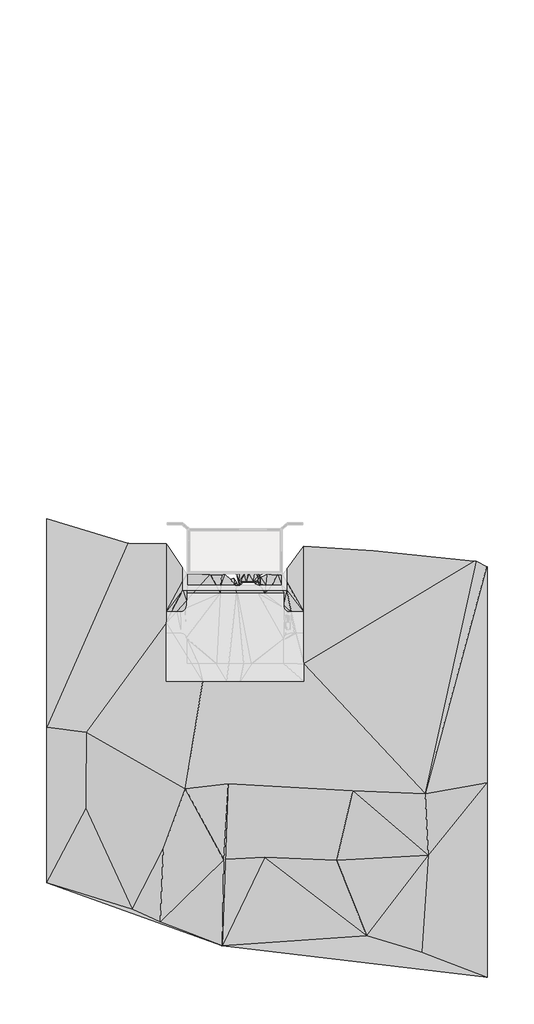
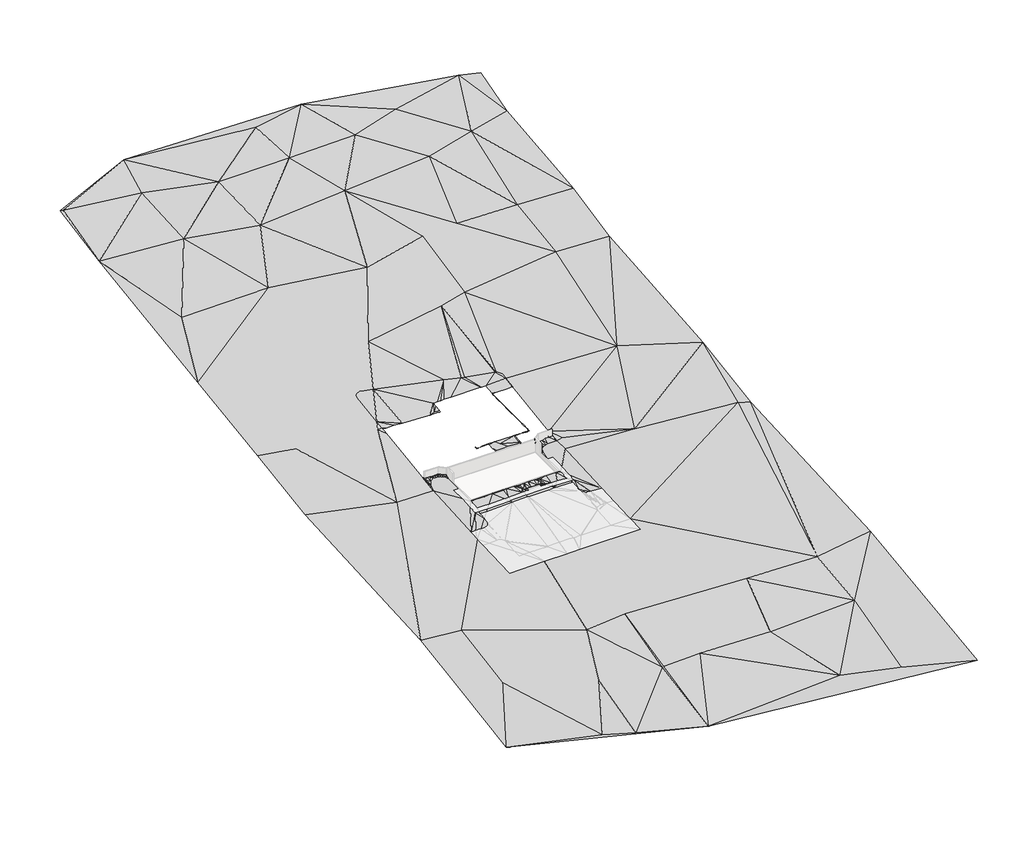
# One storey, part 2 of 2: 2 proxies.
"""IFC4 building model written with IfcOpenShell, lengths in millimetres."""

from ifc_helpers import new_model, si_unit, origin, place, context, project, spatial, triangles, element, save

model = new_model("IFC4")

# Units and contexts
model_context = context("Model", 3, world=origin())
ifc_project = project(units=[si_unit("LENGTHUNIT", "METRE", prefix="MILLI")], contexts=[model_context])

# Site, building, storey
site = spatial("IfcSite", under=ifc_project)
building = spatial("IfcBuilding", under=site)
storey = spatial("IfcBuildingStorey", under=building, Name="T. O. Footing", Elevation=38404.8)

# Proxies
placement = place(None, origin())
element("IfcBuildingElementProxy", 1, Name="Building Element Proxy", at=placement, inside=storey, context=model_context, shape_type="Tessellation", body=[
    triangles([(-65566.3560425, 54771.6940063, 47548.8), (-65566.3560425, 23905.6129211, 43281.6), (-65566.3560425, -345.1837632, 39624.0), (-65566.3560425, -59376.9942993, 36271.2), (-65566.3560425, -80012.2417236, 32918.4), (-65566.3560425, -103024.7161377, 29260.8), (-16088.8167938, -120709.7389893, 29260.8), (58298.9810303, -129683.2563721, 29260.8), (58298.9810303, -100912.8171387, 32918.4), (58298.9810303, -74931.7843872, 36271.2), (58298.9810303, -13804.5701752, 39624.0), (58298.9810303, 10950.1955658, 43281.6), (58298.9810303, 58625.2866943, 47548.8), (58298.9810303, 77099.4381226, 51206.4), (58298.9810303, 111072.8853516, 54864.0), (58298.9810303, 124538.1192627, 58521.6), (53017.0522705, 126513.4126465, 58521.6), (8975.5277252, 130983.2886475, 62179.2), (-42778.1888672, 132098.7461426, 62179.2), (-65566.3560425, 125110.0843506, 58521.6), (-65566.3560425, 105131.4526611, 54864.0), (-65566.3560425, 80665.4483643, 51206.4), (6713.5082382, 23687.6494812, 43454.6964111), (6713.5082382, 22325.9395752, 43281.6), (6713.5082382, 223.4081839, 40127.0669678), (6713.5082382, -3887.1630226, 39624.0), (6713.5082382, -8095.8866501, 39624.0), (6713.5082382, -41502.1365234, 37981.7700073), (6713.5082382, -46447.1509644, 37739.1848145), (-11101.993277, -46447.1509644, 37690.3040771), (-14873.8816498, -46447.1509644, 37697.8082703), (-21667.2100159, -46447.1509644, 37737.7942017), (-31843.6911804, -46447.1509644, 37478.2495789), (-31843.6911804, -29990.7461426, 38210.9304382), (-31843.6911804, -7386.550296, 39624.0), (-31843.6911804, 16710.0009705, 43004.221582), (-31843.6911804, 18912.4676971, 43281.6), (-31843.6911804, 21500.824823, 43679.8408081), (-31843.6911804, 31478.5553284, 45012.8385132), (-31798.0823364, 31884.439856, 45067.9142212), (-31663.5277588, 32270.0791077, 45121.9527832), (-31446.7386658, 32616.2370483, 45172.2520386), (-31158.5306763, 32905.6496155, 45216.3098145), (-30813.279657, 33123.8781555, 45251.9262451), (-30428.2054871, 33260.0396118, 45277.3200439), (-30022.5139709, 33307.3390503, 45291.2308228), (-29616.4434082, 33263.4208008, 45292.9609497), (-26512.2375366, 32570.4468201, 45258.46073), (-8016.3990601, 28441.4779175, 44191.1537842), (-3527.9640175, 27439.4902405, 43913.0963379), (-2630.4894379, 27239.139679, 43841.1611938), (5283.1577545, 25472.5172791, 43671.6366577), (5671.6485764, 25338.478949, 43657.297998), (6020.4005447, 25121.0759399, 43632.0902344), (6311.801944, 24831.2889771, 43597.2784058), (6531.1379745, 24483.7520508, 43554.6251953), (6667.3325684, 24096.0106018, 43506.28396), (-64839.9352661, 124838.4079102, 58521.6), (-57117.6670898, 77534.0581055, 51206.4), (-55581.5050415, 21844.4038513, 43281.6), (-54503.2824829, -82086.8313721, 32918.4), (-54342.5946167, -60669.7386475, 36271.2), (-43589.8276978, 121566.5611084, 58521.6), (-42615.7801758, -7218.9988953, 39624.0), (-41840.7019043, 102995.7132568, 54864.0), (-41419.002063, -110455.8067383, 29260.8), (-33578.3876221, -114053.0383301, 29260.8), (-33188.6648987, 18708.2766724, 43281.6), (-32698.5506287, -93551.2757813, 32918.4), (-31422.1680725, 77804.0602295, 51206.4), (-26498.5802307, -76619.9697144, 36271.2), (-23922.9513977, 116020.1368652, 58521.6), (-21919.3736938, 98427.0525879, 54864.0), (-18777.1213074, 48630.7618652, 47548.8), (-15723.2751526, -96645.5148193, 32918.4), (-15214.353891, -96499.6911621, 32918.4), (-14444.5799469, -75188.0199097, 36271.2), (-4898.8998138, 73072.0188354, 51206.4), (-4245.1559967, -95922.5542969, 32918.4), (-6256.2099884, 127792.3206299, 62179.2), (-3081.402903, 116177.27146, 58521.6), (5530.8839127, 53157.6994995, 47548.8), (8597.6874161, -3404.4724274, 39624.0), (13741.8135406, 55510.3093872, 47548.8), (14294.2170319, 77841.5184082, 51206.4), (16111.8177155, -96765.0703125, 32918.4), (16778.9955963, 116699.7791016, 58521.6), (20526.1866394, -77143.9051758, 36271.2), (24450.7540649, -117898.989624, 29260.8), (24757.4772034, 78625.340332, 51206.4), (26513.2118958, -9307.6138504, 39624.0), (30977.6905518, 103466.15896, 54864.0), (31363.5669983, 121416.2819092, 58521.6), (38557.1930237, 20583.5877869, 43281.6), (39910.326709, -122583.6339111, 29260.8), (40883.1603516, -77986.4165405, 36271.2), (41787.3144653, -95345.6499756, 32918.4), (42279.0797974, 77952.17677, 51206.4), (42879.2524658, 59430.5491699, 47548.8), (45842.480896, 107756.8738037, 54864.0), (55328.1716675, -12321.6362732, 39624.0), (4529.1581383, 100946.601123, 54864.0)], [[6, 61, 5], [61, 6, 66], [5, 61, 62], [66, 67, 69], [67, 66, 6], [69, 67, 75], [66, 69, 61], [6, 7, 67], [62, 61, 71], [3, 4, 64], [62, 4, 5], [34, 64, 4], [68, 64, 36], [4, 62, 34], [33, 34, 62], [3, 64, 60], [33, 62, 71], [68, 60, 64], [71, 61, 69], [32, 71, 77], [75, 67, 7], [71, 69, 75], [75, 76, 77], [76, 75, 7], [29, 30, 77], [75, 77, 71], [79, 77, 76], [32, 77, 31], [37, 38, 68], [35, 36, 64], [64, 34, 35], [30, 31, 77], [36, 37, 68], [76, 7, 79], [32, 33, 71], [60, 68, 38], [70, 59, 1], [60, 1, 2], [1, 59, 22], [60, 39, 40], [60, 38, 39], [1, 60, 41], [2, 3, 60], [65, 59, 70], [58, 20, 21], [21, 22, 59], [19, 63, 72], [63, 58, 21], [58, 19, 20], [19, 58, 63], [72, 63, 65], [63, 21, 65], [59, 65, 21], [60, 40, 41], [44, 1, 43], [43, 1, 42], [48, 49, 74], [74, 1, 44], [1, 74, 70], [74, 44, 45], [74, 45, 46], [70, 78, 73], [74, 47, 48], [81, 72, 73], [65, 73, 72], [78, 70, 74], [46, 47, 74], [73, 65, 70], [82, 74, 49], [42, 1, 41], [19, 72, 80], [83, 26, 27], [96, 28, 29], [88, 29, 77], [83, 27, 91], [79, 89, 86], [27, 28, 91], [56, 57, 94], [23, 24, 94], [25, 94, 24], [25, 83, 91], [25, 26, 83], [57, 23, 94], [79, 86, 88], [88, 86, 97], [89, 7, 95], [97, 89, 95], [88, 97, 96], [95, 9, 97], [9, 95, 8], [96, 97, 10], [7, 8, 95], [10, 97, 9], [91, 12, 94], [96, 101, 28], [91, 94, 25], [96, 29, 88], [11, 101, 96], [101, 12, 91], [12, 101, 11], [28, 101, 91], [10, 11, 96], [94, 12, 13], [97, 86, 89], [79, 7, 89], [56, 94, 55], [82, 50, 51], [82, 51, 52], [54, 55, 84], [53, 54, 84], [52, 53, 82], [72, 81, 80], [78, 102, 73], [73, 102, 81], [80, 81, 18], [78, 85, 102], [84, 82, 53], [81, 87, 18], [102, 87, 81], [85, 78, 84], [84, 78, 82], [74, 82, 78], [80, 18, 19], [94, 84, 55], [49, 50, 82], [90, 99, 98], [90, 85, 84], [90, 98, 92], [90, 92, 102], [99, 13, 14], [84, 94, 99], [99, 14, 98], [84, 99, 90], [98, 14, 100], [87, 92, 93], [87, 102, 92], [93, 92, 100], [87, 93, 18], [100, 15, 17], [100, 92, 98], [16, 17, 15], [100, 17, 93], [14, 15, 100], [93, 17, 18], [102, 85, 90], [94, 13, 99], [77, 79, 88]], closed=False),
])
element("IfcBuildingElementProxy", 2, Name="Building Element Proxy", at=placement, inside=storey, context=model_context, shape_type="Tessellation", body=[
    triangles([(6713.5082382, 23687.6494812, 43454.6964111), (6667.3325684, 24096.0106018, 43506.28396), (6531.1379745, 24483.7520508, 43554.6251953), (6311.801944, 24831.2889771, 43597.2784058), (6020.4005447, 25121.0759399, 43632.0902344), (5671.6485764, 25338.478949, 43657.297998), (5283.1577545, 25472.5172791, 43671.6366577), (-2630.4894379, 27239.139679, 43841.1611938), (-3527.9640175, 27439.4902405, 43913.0963379), (-8016.3990601, 28441.4779175, 44191.1537842), (-26512.2375366, 32570.4468201, 45258.46073), (-29616.4434082, 33263.4208008, 45292.9609497), (-30022.5139709, 33307.3390503, 45291.2308228), (-30428.2054871, 33260.0396118, 45277.3200439), (-30813.279657, 33123.8781555, 45251.9262451), (-31158.5306763, 32905.6496155, 45216.3098145), (-31446.7386658, 32616.2370483, 45172.2520386), (-31663.5277588, 32270.0791077, 45121.9527832), (-31798.0823364, 31884.439856, 45067.9142212), (-31843.6911804, 31478.5553284, 45012.8385132), (-31843.6911804, 21500.824823, 43679.8408081), (-31843.6911804, 18912.4676971, 43281.6), (-31843.6911804, 18475.2478729, 43226.5382446), (-31405.1621338, 18475.2478729, 43213.2785889), (-30975.3069763, 18475.2478729, 43196.4982178), (-28553.5594482, 18475.2478729, 43146.7710205), (-26116.1245056, 18475.2478729, 43033.3825928), (-23969.8996948, 18475.2478729, 42926.5658569), (-21660.9104004, 18475.2478729, 42846.9335083), (-18010.1262634, 18475.2478729, 42705.7560791), (-17524.9454132, 18475.2478729, 42672.0), (-17471.6940125, 18475.2478729, 42672.0), (-16727.5917572, 18475.2478729, 42672.0), (-14875.2024994, 18475.2478729, 42672.0), (-14853.2596527, 18475.2478729, 42672.0), (-14825.691568, 18475.2478729, 42672.0), (-14825.691568, 18969.9025635, 42672.0), (-14825.691568, 19138.3294922, 42684.9945557), (-14825.691568, 20748.5567871, 42941.2300781), (-14825.691568, 22031.2482605, 43169.9603027), (-13690.3341248, 22031.2482605, 43149.6359619), (-12708.2661621, 22031.2482605, 43153.3520142), (-11842.5794678, 22031.2482605, 43253.5970581), (-9687.3302078, 22031.2482605, 43197.8748779), (-939.6762188, 22031.2482605, 43182.085144), (-625.5177784, 22031.2482605, 43164.5048218), (617.5082382, 22031.2482605, 43174.8204712), (617.5082382, 18802.5011536, 42744.9955444), (617.5082382, 18777.5015167, 42742.2887329), (617.5082382, 18672.6218719, 42728.2012207), (617.5082382, 18487.4448029, 42722.9085205), (617.5082382, 18345.6383423, 42704.030603), (617.5082382, 18298.5237762, 42698.9006836), (617.5082382, 17870.5045532, 42672.0), (617.5082382, 16869.3819397, 42672.0), (617.5082382, 16505.0623169, 42645.0295532), (617.5082382, 16325.7674469, 42643.387793), (617.5082382, 13073.4461975, 42613.622168), (617.5082382, 12358.5351837, 42601.8042847), (617.5082382, 11488.1778442, 42584.1541992), (617.5082382, 10958.6008667, 42587.1307617), (617.5082382, 5682.8653336, 42616.7894165), (617.5082382, 5133.5709549, 42591.4421265), (617.5082382, 2208.9770851, 42619.3939087), (617.5082382, 1878.4754562, 42622.5518555), (617.5082382, 1508.353862, 42614.7011719), (617.5082382, 1280.1252056, 42643.3924438), (617.5082382, 1043.7543137, 42641.2669922), (617.5082382, 763.1747103, 42618.5660522), (617.5082382, 637.5418991, 42607.362085), (617.5082382, 451.9540266, 42590.4049805), (617.5082382, 394.358814, 42585.2564575), (617.5082382, 264.7806404, 42574.5966431), (617.5082382, -117.5519817, 42539.3662354), (534.7179065, -117.5519817, 42544.4682495), (359.6249602, -117.5519817, 42547.2680786), (-81.5194064, -117.5519817, 42560.5602905), (-95.457382, -117.5519817, 42561.002124), (-127.0019591, -117.5519817, 42561.9276489), (-649.1245497, -117.5519817, 42573.294397), (-844.679183, -117.5519817, 42573.294397), (-930.609403, -117.5519817, 42573.7083252), (-1118.1737537, -117.5519817, 42573.7083252), (-3531.6614662, -117.5519817, 42567.2436035), (-3634.6755272, -117.5519817, 42564.4902832), (-3707.1806946, -117.5519817, 42560.4626221), (-3847.7395569, -117.5519817, 42566.3971436), (-9536.2214081, -117.5519817, 42672.0), (-11376.8358032, -117.5519817, 42662.358728), (-12971.3128967, -117.5519817, 42587.8144409), (-13097.3819458, -117.5519817, 42584.5960327), (-13213.2923126, -117.5519817, 42576.5035034), (-14512.0688507, -117.5519817, 42461.6267944), (-14757.6306061, -117.5519817, 42463.6452759), (-14825.691568, -117.5519817, 42463.9010742), (-14825.691568, 492.0480183, 42487.8484497), (-14874.9036804, 492.0480183, 42488.0344849), (-14874.9036804, -176.2894757, 42461.7802734), (-14751.0728668, -176.2894757, 42461.3151855), (-14481.8509277, -176.2894757, 42459.0967163), (-13057.9308655, -176.2894757, 42585.047168), (-11410.979068, -176.2894757, 42662.0424683), (-11410.979068, -633.6019506, 42672.0), (-11410.979068, -796.5760145, 42672.0), (-11410.979068, -2536.0472374, 42672.0), (-11410.979068, -2657.4040741, 42672.0), (-11410.979068, -3598.5678474, 42627.639917), (-11410.979068, -3622.7521271, 42631.3373657), (-11373.8964478, -3622.7521271, 42632.5372925), (-11131.5368225, -3622.7521271, 42672.0), (-10871.1550415, -3622.7521271, 42672.0), (-8669.1975861, -3622.7521271, 42672.0), (-7638.4872437, -3622.7521271, 42672.0), (-4750.4728271, -3622.7521271, 42448.9950073), (-4361.559938, -3622.7521271, 42449.6135742), (-3812.9431343, -3622.7521271, 42367.2), (-3693.8972031, -3622.7521271, 42367.2), (-3668.7417618, -3622.7521271, 42367.2), (-3668.7417618, -3544.7699684, 42367.2), (-3668.7417618, -2999.2634399, 42367.2), (-3668.7417618, -2603.8250771, 42395.5378052), (-3668.7417618, -166.7644757, 42563.4856934), (-1168.6588989, -166.7644757, 42570.182959), (-974.3647991, -166.7644757, 42570.182959), (-885.3514097, -166.7644757, 42569.7504272), (-682.7803442, -166.7644757, 42569.7504272), (-141.9242132, -166.7644757, 42557.9790527), (334.8333776, -166.7644757, 42543.6171387), (524.0614348, -166.7644757, 42540.5894165), (652.5906898, -166.7644757, 42532.6689697), (666.7207867, -166.7644757, 42532.3015503), (666.7207867, 492.0480183, 42592.5071777), (666.7207867, 689.6623369, 42610.5618896), (666.7207867, 1012.2610325, 42636.6626221), (666.7207867, 1284.0304905, 42639.1089844), (666.7207867, 1546.4383106, 42606.1203003), (666.7207867, 1971.988789, 42615.1430054), (666.7207867, 5132.682637, 42584.9401978), (666.7207867, 5726.321402, 42612.3338745), (666.7207867, 11427.962915, 42580.2800171), (666.7207867, 12336.7062836, 42598.7067993), (666.7207867, 13083.1467682, 42611.0455811), (666.7207867, 16478.9080994, 42642.1274048), (666.7207867, 16882.4416077, 42672.0), (666.7207867, 17991.3239227, 42672.0), (666.7207867, 18465.4147522, 42701.7981812), (666.7207867, 18517.6011017, 42707.4769043), (666.7207867, 18674.6717468, 42728.3872559), (1038.4202642, 18674.6717468, 42731.4707886), (1396.1425426, 18674.6717468, 42736.2286377), (4995.9084274, 18674.6717468, 42774.1612061), (6497.9452332, 18674.6717468, 42791.1276123), (6713.5082382, 18674.6717468, 42760.4829712), (6713.5082382, 22325.9395752, 43281.6), (-25379.7113159, -3622.7521271, 40728.3093384), (-25515.6890625, -3504.5209717, 40548.4970581), (-25782.0030396, -3272.9647568, 41252.3750244), (-25864.2584839, -3201.4458664, 41501.5040039), (-25973.5657654, -3106.4037025, 41374.2606079), (-26436.7886536, -2703.6381706, 41213.330896), (-26571.3223022, -2586.6633339, 41210.2520142), (-26710.90448, -2465.2986488, 41223.2140137), (-27093.7369263, -2132.4324841, 41975.1681152), (-27296.4361816, -1956.1882999, 42066.6090454), (-27307.7471191, -1946.3519817, 42065.9858276), (-27357.7696472, -1946.3519817, 42062.4), (-27377.1266052, -1946.3519817, 42062.4), (-27697.2233459, -1946.3519817, 42062.4), (-28132.7339722, -1946.3519817, 41633.4447876), (-28262.1749084, -1946.3519817, 41577.699353), (-28830.4192932, -1946.3519817, 41530.5254883), (-28918.8487793, -1946.3519817, 41509.8290771), (-29188.2718689, -1946.3519817, 41757.6), (-29660.1221375, -1946.3519817, 41452.8), (-29999.8548889, -1946.3519817, 40843.2), (-30250.4861023, -1946.3519817, 40600.0985596), (-31075.6729431, -1946.3519817, 40233.6), (-31456.7008484, -1946.3519817, 40233.6), (-31665.3718323, -1946.3519817, 40314.2741455), (-31743.8833191, -1946.3519817, 40389.6044312), (-31843.6911804, -1946.3519817, 40397.7388184), (-31843.6911804, -7386.550296, 39624.0), (-31843.6911804, -26838.3525146, 38407.9974792), (-30517.4232971, -26838.3525146, 38532.6270813), (-30342.8386047, -26838.3525146, 38532.6270813), (-29594.3191772, -26838.3525146, 38532.6270813), (-29013.3732422, -26838.3525146, 38534.8199707), (-28033.6911804, -26838.3525146, 38563.1601013), (-27626.7462524, -26792.4994995, 38578.4521912), (-27240.2047302, -26657.2449646, 38600.0183167), (-26893.4538025, -26439.3652405, 38626.774823), (-26603.8784546, -26149.7898926, 38657.3822571), (-26385.9987305, -25803.0389648, 38690.3058289), (-26250.7441956, -25416.4974426, 38723.8944763), (-26204.8911804, -25009.5525146, 38756.4645813), (-26204.8911804, -23710.2783325, 38856.2119812), (-26204.8911804, -22088.2192017, 39017.3719116), (-26204.8911804, -21656.7525146, 39061.4017822), (-25897.0216003, -21656.7525146, 39061.4017822), (-24361.1711609, -21656.7525146, 39067.2014282), (-16697.3819733, -21656.7525146, 39288.894873), (-12261.8120178, -21656.7525146, 39441.7460083), (-11904.9175232, -21656.7525146, 39441.0344238), (-6095.3855026, -21656.7525146, 39441.0344238), (-4153.477581, -21656.7525146, 39434.3650635), (1074.7082382, -21656.7525146, 39294.5875488), (1074.7082382, -25009.5525146, 39098.2646484), (1120.5600906, -25416.4974426, 39073.2103638), (1255.8163696, -25803.0389648, 39046.9561523), (1473.6947857, -26149.7898926, 39020.8275146), (1763.2701336, -26439.3652405, 38996.1313477), (2110.0216427, -26657.2449646, 38974.1024597), (2496.5618568, -26792.4994995, 38955.84776), (2903.5082382, -26838.3525146, 38942.2834717), (3272.9423744, -26838.3525146, 38932.4073303), (6713.5082382, -26838.3525146, 38702.6329834), (6713.5082382, -8095.8866501, 39624.0), (6713.5082382, -3887.1630226, 39624.0), (6713.5082382, -1946.3519817, 39861.5250366), (6329.6409714, -1946.3519817, 40220.4798706), (6269.6678879, -1946.3519817, 40406.4871216), (5995.5218307, -1946.3519817, 40655.0719482), (5624.4555267, -1946.3519817, 40655.0719482), (5203.6753967, -1946.3519817, 40655.0719482), (4943.174437, -1946.3519817, 41030.4025269), (4700.6854591, -1946.3519817, 41757.6), (3942.0320572, -1946.3519817, 42062.4), (2905.2055183, -1946.3519817, 42062.4), (2126.7643707, -1946.3519817, 42062.4), (1776.2123669, -2251.1519817, 42062.4), (1600.8409492, -2403.6349709, 42062.4), (1595.2469593, -2408.4989182, 42062.4), (1457.3863335, -2528.3666016, 41559.0632813), (1382.3871323, -2593.5774467, 41511.791748), (1336.9759506, -2633.0619553, 41469.4640991), (1289.6270966, -2674.230954, 41579.6945801), (1184.4857672, -2765.6500832, 41891.7871582), (1169.0247923, -2779.093158, 41916.2507813), (1095.3837204, -2843.1229706, 42062.4), (1049.9279921, -2882.6461395, 42075.4457153), (975.4387888, -2947.4134071, 42062.4), (922.7716547, -2993.2065422, 42010.3055054), (919.8018505, -2995.7889427, 42002.2129761), (862.4592024, -3045.6475273, 42020.1421143), (835.2304138, -3069.3225357, 42062.4), (787.8670258, -3110.5043243, 42073.4504883), (784.0070869, -3113.8605148, 42063.7673584), (483.6728391, -3374.9969009, 42094.2817749), (314.5365423, -3522.058564, 42062.4), (198.728513, -3622.7521271, 42176.4395508), (594.9359241, -3622.7521271, 40162.6647949), (617.5082382, -3622.7521271, 40121.2905762), (617.5082382, -3630.857737, 40009.7345947), (617.5082382, -3634.8040077, 39991.1403809), (617.5082382, -3716.6620926, 39928.8), (617.5082382, -4125.0095512, 39928.8), (617.5082382, -4397.1458473, 39928.8), (617.5082382, -4959.5048355, 39928.8), (617.5082382, -5186.2096024, 39876.8310791), (617.5082382, -5389.9843735, 39859.627478), (617.5082382, -5660.0510284, 39839.0984985), (617.5082382, -6491.3572632, 39692.4004761), (617.5082382, -8388.4769302, 39649.5472778), (617.5082382, -9798.1275146, 39624.0), (786.0600866, -9798.1275146, 39624.0), (1989.1082382, -9798.1275146, 39624.0), (1989.1082382, -13428.8233429, 39624.0), (1989.1082382, -14514.0512878, 39624.0), (1989.1082382, -18358.6596405, 39435.0022339), (1989.1082382, -20742.3525146, 39298.8338013), (1023.9082867, -20742.3525146, 39349.4911743), (-3332.9131325, -20742.3525146, 39465.9724365), (-4040.9934586, -20742.3525146, 39463.5260742), (-4654.1868439, -20742.3525146, 39501.2958618), (-5910.7159607, -20742.3525146, 39505.6118774), (-8175.4248184, -20742.3525146, 39505.6118774), (-11934.5331573, -20742.3525146, 39505.6118774), (-12165.4655731, -20742.3525146, 39506.0676636), (-15035.540387, -20742.3525146, 39407.1667236), (-16626.8641846, -20742.3525146, 39345.4356079), (-16904.2495789, -20742.3525146, 39345.4356079), (-17169.5205963, -20742.3525146, 39345.4356079), (-23540.1933655, -20742.3525146, 39161.1491821), (-23963.4442749, -20742.3525146, 39159.5492798), (-24508.7807556, -20742.3525146, 39159.5492798), (-25789.8932556, -20742.3525146, 39154.7170166), (-25917.0878174, -20742.3525146, 39154.7170166), (-26173.8930725, -20742.3525146, 39154.7170166), (-27201.8419556, -20742.3525146, 39131.2672852), (-27201.8419556, -18316.9784637, 39376.8941528), (-27201.8419556, -14364.1720642, 39624.0), (-27201.8419556, -9798.1275146, 39624.0), (-25875.6298828, -9798.1275146, 39624.0), (-25830.2419556, -9798.1275146, 39624.0), (-25830.2419556, -16143.7192566, 39624.0), (-25830.2419556, -19370.7525146, 39294.6852173), (-25629.203064, -19370.7525146, 39294.6852173), (-24730.1974731, -19370.7525146, 39298.0803589), (-23366.8551086, -19370.7525146, 39298.0803589), (-22308.7289978, -19370.7525146, 39302.070813), (-17877.7285309, -19370.7525146, 39430.2490356), (-17214.5504059, -19370.7525146, 39430.2490356), (-16521.0880829, -19370.7525146, 39430.2490356), (-12542.7762634, -19370.7525146, 39584.5744995), (-12020.9453247, -19370.7525146, 39602.5594482), (-11978.9571899, -19370.7525146, 39602.4757324), (-11295.4826294, -19370.7525146, 39602.4757324), (-10609.2919556, -19370.7525146, 39602.4757324), (-10609.2919556, -19065.9525146, 39624.0), (-10609.2919556, -18532.5525146, 39624.0), (-6951.6919556, -18532.5525146, 39624.0), (-6951.6919556, -19065.9525146, 39624.0), (-6951.6919556, -19370.7525146, 39602.4757324), (-5633.7107758, -19370.7525146, 39602.4757324), (-5405.2508835, -19370.7525146, 39601.6897339), (-3872.2674202, -19370.7525146, 39507.2675903), (-2102.0667503, -19370.7525146, 39513.3788452), (617.5082382, -19370.7525146, 39440.6716553), (617.5082382, -16340.1793579, 39618.1305908), (617.5082382, -16153.6337677, 39624.0), (617.5082382, -16017.9525146, 39624.0), (-619.3576166, -16017.9525146, 39624.0), (-1449.6644211, -16017.9525146, 39621.1350586), (-3311.1365547, -16017.9525146, 39614.7075439), (-3459.8260254, -16017.9525146, 39614.1959473), (-4118.7352249, -16017.9525146, 39624.0), (-6034.8066422, -16017.9525146, 39530.7498779), (-6192.3609787, -16017.9525146, 39471.6), (-7037.4169556, -16017.9525146, 39522.4015503), (-8564.0249359, -16017.9525146, 39613.1122925), (-8715.470343, -16017.9525146, 39620.0328003), (-8767.5212357, -16017.9525146, 39620.0328003), (-10032.235318, -16017.9525146, 39547.8), (-11271.3387543, -16017.9525146, 39471.6), (-11532.7832611, -16017.9525146, 39489.2919434), (-12671.1916809, -16017.9525146, 39624.0), (-13104.6373169, -16017.9525146, 39619.0328613), (-15313.5222565, -16017.9525146, 39624.0), (-16264.7141968, -16017.9525146, 39669.4251343), (-16318.8876343, -16017.9525146, 39669.3088623), (-17934.2320587, -16017.9525146, 39669.3088623), (-17935.6842957, -16017.9525146, 39669.3088623), (-19480.4865143, -16017.9525146, 39669.3088623), (-19563.9174683, -16017.9525146, 39624.0), (-19711.5038086, -16017.9525146, 39624.0), (-22039.8733154, -16017.9525146, 39624.0), (-25262.6114868, -16017.9525146, 39624.0), (-25798.4927307, -16017.9525146, 39624.0), (-25798.4927307, -10146.0295349, 39624.0), (-25798.4927307, -9850.2278229, 39624.0), (-25798.4927307, -9830.4011261, 39624.0), (-25798.4927307, -9740.3670868, 39624.0), (-25798.4927307, -7375.1230865, 39624.0), (-25798.4927307, -6360.098996, 39624.0), (-25798.4927307, -5043.3148361, 39624.0), (-25798.4927307, -4938.3631027, 39624.0), (-25798.4927307, -4933.3093414, 39624.0), (-25798.4927307, -4864.7888145, 39624.0), (-25798.4927307, -4494.3152069, 39768.6934937), (-25798.4927307, -4331.7190269, 39873.1940918), (-25798.4927307, -4013.5372856, 39938.7296265), (-25798.4927307, -3694.0181259, 40044.6719971), (-25798.4927307, -3622.7521271, 40250.5245483), (-25697.433783, -3622.7521271, 40198.2626221), (-25669.9540649, -3622.7521271, 40233.6), (1271.5433167, -3140.3173302, 39928.8), (1817.5166771, -2566.8366371, 39928.8), (2086.3916897, -2246.474651, 39928.8), (3284.5323647, -2251.1519817, 39928.8), (4258.2304893, -2251.1519817, 40233.6), (5181.1657242, -2251.1519817, 40233.6), (5762.7999893, -2251.1519817, 40233.6), (6275.7169373, -2251.1519817, 40233.6), (727.1008221, -3474.938475, 39928.8), (-4074.4062447, -2999.2634399, 42367.2), (-27345.4820251, -1992.3068802, 42062.4), (-16292.3939026, 19091.5242096, 42672.0), (-14874.9036804, 18489.5318848, 42672.0), (-16827.497287, 18757.0841583, 42672.0), (-14884.4286804, 19058.0797394, 42672.0), (-8834.3875031, -1677.1832371, 42672.0), (-26384.4709167, -3102.7475304, 40233.6), (-31611.919281, -6640.7179138, 39624.0), (-30222.3854919, -3372.6668106, 39624.0), (-30628.3397827, -2176.1096146, 40233.6), (-29924.3594971, -2200.3520302, 40233.6), (-29183.7767944, -2143.8011215, 40233.6), (-28619.1252136, -2165.2903622, 40233.6), (-30963.3844482, -4663.5452843, 39624.0), (-29205.3987305, -2626.6082794, 39624.0), (-26075.2804871, -3889.2105721, 39624.0), (-31333.7757935, -5524.201181, 39624.0), (-25251.1354431, -16143.7192566, 39624.0), (-21963.2314819, -16143.7192566, 39624.0), (-19495.5623383, -16237.4612091, 39624.0), (-17923.4036499, -16237.4612091, 39624.0), (-16279.4516693, -16237.4612091, 39624.0), (-11988.8286804, -16659.3017395, 39624.0), (-11743.2099518, -18083.4741119, 39624.0), (-5572.154068, -19065.9525146, 39624.0), (-5572.154068, -16659.3017395, 39624.0), (762.6796097, -8650.7876633, 39624.0), (1076.6552124, -6772.055246, 39624.0), (1269.7117424, -6049.6336441, 39624.0), (1549.0598076, -5136.991095, 39624.0), (3152.8656921, -4201.9211357, 39624.0), (2455.3120491, -4421.5402885, 39624.0), (4061.3259384, -3863.3106995, 39624.0), (-31700.0139038, -3018.1070572, 40233.6), (-31631.9366638, -2403.5519817, 40233.6), (-27821.5645935, -2720.7510796, 39624.0), (-28384.4930237, -2631.3324097, 39624.0), (-26678.3413513, -3294.4387367, 39624.0), (-28130.3806274, -2204.0019527, 40233.6), (-27725.4192993, -2222.692527, 40233.6), (-27413.9127319, -2254.0281143, 40233.6), (-27164.7070129, -2434.5179695, 40233.6), (-26759.5131409, -2773.5591934, 40233.6), (-25674.1817139, -3606.3542908, 40233.6), (-27208.4043457, -2893.32136, 39624.0), (-25977.7980652, -4471.1791191, 39624.0), (534.6143881, -3492.7466904, 42062.4), (629.454384, -3635.1478821, 39928.8), (789.2050255, -4747.1430885, 39928.8), (663.6562935, -3495.1889832, 39928.8), (687.7218304, -3431.0141212, 39928.8), (722.4831533, -3377.5354088, 39928.8), (778.6359758, -3273.2513672, 39928.8), (928.3769812, -3155.5977928, 39928.8), (1051.3784849, -3075.3794334, 39928.8), (1174.3799887, -2989.8131447, 39928.8), (1366.9040657, -2789.2672462, 39928.8), (1546.0585373, -2652.895919, 39928.8), (787.3262884, -3117.2265884, 42062.4), (1061.0047142, -2880.4485992, 42062.4), (1605.2864628, -2403.5519817, 42062.4), (-11410.979068, -18066.0228516, 39471.6), (-10761.366394, -18392.8517395, 39471.6), (-9469.8713882, -18392.8517395, 39471.6), (-7471.1288544, -18392.8517395, 39471.6), (-6245.2542618, -18430.8412811, 39471.6), (-6137.3044556, -18035.272403, 39471.6), (-6162.704068, -16843.4521271, 39471.6), (-6181.754068, -16049.7017395, 39471.6), (-11315.729068, -16081.4521271, 39471.6)], [[289, 183, 184], [185, 289, 184], [196, 289, 186], [185, 186, 289], [188, 195, 187], [196, 186, 187], [188, 190, 191], [289, 290, 183], [193, 188, 192], [188, 193, 195], [191, 192, 188], [188, 189, 190], [183, 290, 182], [195, 196, 187], [196, 197, 289], [198, 289, 197], [288, 199, 287], [199, 288, 198], [198, 288, 289], [199, 285, 286], [194, 195, 193], [296, 297, 295], [295, 393, 348], [347, 348, 393], [393, 295, 297], [287, 199, 286], [348, 349, 295], [352, 292, 293], [291, 292, 182], [294, 351, 352], [351, 294, 350], [294, 349, 350], [294, 295, 349], [352, 293, 294], [409, 182, 383], [182, 292, 383], [392, 383, 354], [409, 383, 392], [389, 355, 421], [389, 392, 354], [391, 421, 360], [389, 421, 384], [292, 352, 353], [391, 413, 421], [353, 383, 292], [392, 389, 409], [291, 182, 290], [389, 354, 355], [421, 355, 356], [357, 358, 421], [359, 421, 358], [357, 421, 356], [421, 359, 360], [361, 362, 391], [391, 362, 363], [364, 419, 363], [419, 364, 365], [365, 155, 156], [391, 360, 361], [354, 383, 353], [382, 391, 363], [285, 200, 284], [200, 285, 199], [284, 200, 283], [283, 201, 282], [201, 283, 200], [281, 282, 201], [201, 280, 281], [299, 393, 298], [299, 300, 394], [397, 302, 303], [396, 301, 302], [301, 395, 300], [280, 201, 279], [202, 279, 201], [278, 279, 202], [278, 203, 277], [203, 278, 202], [276, 277, 203], [276, 203, 204], [399, 306, 307], [399, 305, 306], [309, 438, 307], [439, 438, 310], [310, 438, 309], [309, 307, 308], [304, 305, 399], [303, 304, 338], [307, 438, 437], [393, 394, 346], [394, 300, 395], [346, 394, 345], [345, 395, 344], [395, 301, 396], [340, 396, 397], [395, 396, 343], [302, 397, 396], [395, 345, 394], [393, 299, 394], [343, 344, 395], [343, 396, 342], [341, 396, 340], [339, 340, 397], [342, 396, 341], [397, 338, 339], [303, 338, 397], [337, 398, 336], [398, 337, 399], [335, 336, 398], [307, 437, 399], [438, 439, 333], [445, 398, 437], [333, 445, 437], [438, 333, 437], [437, 398, 399], [338, 304, 337], [335, 398, 445], [335, 445, 334], [333, 439, 332], [331, 332, 439], [334, 445, 333], [439, 330, 331], [330, 439, 440], [337, 304, 399], [346, 347, 393], [298, 393, 297], [409, 385, 410], [385, 409, 384], [410, 385, 177], [409, 410, 181], [384, 390, 386], [390, 384, 412], [386, 390, 387], [384, 386, 385], [409, 389, 384], [177, 385, 176], [181, 410, 180], [180, 410, 179], [387, 174, 386], [388, 387, 390], [178, 410, 177], [172, 387, 388], [178, 179, 410], [176, 385, 386], [390, 412, 388], [409, 181, 182], [411, 413, 420], [411, 412, 384], [417, 411, 420], [414, 412, 411], [161, 418, 160], [413, 418, 420], [161, 162, 418], [418, 413, 382], [420, 418, 417], [421, 411, 384], [418, 162, 417], [411, 416, 415], [415, 414, 411], [168, 415, 416], [169, 414, 415], [163, 376, 416], [163, 417, 162], [376, 167, 416], [164, 376, 163], [163, 416, 417], [417, 416, 411], [388, 414, 170], [412, 414, 388], [413, 411, 421], [165, 376, 164], [20, 12, 13], [25, 21, 22], [26, 21, 25], [23, 24, 22], [25, 22, 24], [21, 11, 20], [18, 15, 17], [14, 18, 19], [16, 17, 15], [15, 18, 14], [19, 13, 14], [19, 20, 13], [174, 175, 386], [173, 174, 387], [171, 172, 388], [169, 170, 414], [171, 388, 170], [173, 387, 172], [27, 11, 21], [20, 11, 12], [166, 167, 376], [27, 21, 26], [166, 376, 165], [168, 416, 167], [169, 415, 168], [176, 386, 175], [160, 382, 159], [382, 160, 418], [159, 382, 158], [419, 156, 157], [158, 363, 157], [158, 382, 363], [413, 391, 382], [95, 99, 94], [99, 95, 98], [99, 100, 93], [92, 93, 100], [92, 100, 101], [99, 93, 94], [156, 419, 365], [97, 98, 95], [106, 107, 110], [110, 107, 109], [106, 111, 105], [111, 112, 381], [106, 110, 111], [381, 112, 113], [101, 90, 91], [91, 92, 101], [103, 104, 88], [381, 104, 105], [89, 102, 103], [88, 104, 381], [105, 111, 381], [90, 101, 102], [381, 87, 88], [108, 109, 107], [31, 32, 379], [30, 31, 379], [33, 34, 377], [35, 378, 34], [32, 33, 379], [11, 29, 40], [28, 29, 11], [33, 377, 379], [377, 30, 379], [377, 380, 38], [380, 377, 378], [380, 378, 37], [30, 40, 29], [378, 377, 34], [30, 377, 40], [378, 35, 36], [38, 380, 37], [37, 378, 36], [89, 90, 102], [89, 103, 88], [96, 97, 95], [39, 377, 38], [39, 40, 377], [40, 41, 10], [43, 44, 10], [42, 10, 41], [10, 42, 43], [10, 11, 40], [44, 9, 10], [11, 27, 28], [113, 114, 381], [363, 419, 157], [310, 311, 439], [312, 441, 311], [314, 441, 312], [440, 439, 311], [314, 312, 313], [275, 204, 274], [442, 441, 400], [311, 441, 442], [329, 444, 328], [443, 329, 440], [327, 443, 401], [443, 444, 329], [444, 327, 328], [327, 444, 443], [401, 443, 442], [443, 440, 442], [440, 311, 442], [276, 204, 275], [314, 315, 400], [205, 272, 273], [272, 205, 206], [206, 271, 272], [205, 273, 274], [204, 205, 274], [400, 316, 401], [316, 400, 315], [326, 401, 316], [401, 442, 400], [317, 323, 324], [316, 317, 324], [317, 322, 323], [322, 320, 321], [327, 401, 326], [322, 317, 318], [400, 441, 314], [324, 325, 316], [114, 115, 375], [117, 118, 119], [326, 316, 325], [120, 375, 119], [116, 375, 115], [119, 375, 116], [121, 375, 120], [119, 116, 117], [426, 248, 422], [422, 248, 249], [422, 249, 251], [375, 87, 381], [259, 260, 405], [258, 259, 424], [263, 264, 402], [261, 262, 404], [263, 403, 262], [260, 261, 404], [252, 253, 423], [422, 251, 425], [256, 257, 424], [249, 250, 251], [254, 255, 423], [256, 366, 255], [253, 254, 423], [258, 424, 257], [252, 425, 251], [381, 114, 375], [270, 271, 206], [208, 209, 214], [214, 207, 208], [207, 270, 206], [264, 265, 402], [320, 322, 319], [403, 263, 402], [262, 403, 404], [404, 403, 217], [259, 405, 424], [260, 404, 405], [266, 403, 402], [402, 265, 266], [407, 256, 424], [214, 209, 210], [319, 322, 318], [207, 215, 270], [214, 211, 212], [216, 270, 215], [215, 207, 214], [213, 214, 212], [270, 216, 269], [266, 217, 403], [266, 267, 217], [404, 406, 407], [268, 269, 217], [406, 404, 217], [405, 404, 407], [269, 216, 217], [217, 267, 268], [405, 407, 424], [214, 210, 211], [407, 366, 256], [425, 374, 426], [374, 425, 423], [427, 248, 426], [423, 425, 252], [427, 374, 428], [374, 427, 426], [428, 429, 434], [429, 428, 374], [429, 374, 366], [428, 248, 427], [423, 255, 374], [248, 428, 247], [247, 434, 246], [434, 247, 428], [246, 434, 245], [434, 429, 245], [245, 429, 244], [244, 429, 243], [243, 430, 242], [243, 429, 430], [426, 422, 425], [240, 241, 430], [430, 241, 242], [431, 430, 366], [431, 435, 430], [217, 408, 406], [408, 217, 218], [407, 406, 367], [433, 432, 366], [432, 431, 366], [366, 430, 429], [374, 255, 366], [369, 406, 408], [240, 435, 239], [435, 240, 430], [435, 431, 239], [238, 432, 237], [238, 239, 431], [236, 237, 432], [236, 432, 235], [432, 238, 431], [408, 218, 371], [366, 407, 367], [121, 122, 87], [84, 122, 123], [81, 125, 126], [123, 124, 83], [125, 82, 124], [126, 127, 80], [81, 126, 80], [122, 86, 87], [122, 85, 86], [123, 83, 84], [122, 84, 85], [124, 82, 83], [125, 81, 82], [121, 87, 375], [77, 127, 128], [76, 128, 129], [77, 128, 76], [129, 130, 74], [74, 75, 129], [74, 131, 73], [129, 75, 76], [78, 79, 127], [77, 78, 127], [72, 73, 132], [132, 71, 72], [132, 70, 71], [70, 133, 69], [127, 79, 80], [64, 138, 63], [65, 137, 64], [138, 62, 63], [65, 66, 136], [137, 65, 136], [66, 67, 135], [9, 45, 8], [9, 44, 45], [8, 45, 46], [62, 139, 61], [140, 60, 61], [8, 46, 47], [67, 68, 135], [142, 58, 59], [142, 57, 58], [55, 56, 144], [57, 143, 56], [144, 54, 55], [54, 145, 53], [141, 59, 60], [146, 52, 53], [146, 51, 52], [148, 49, 50], [150, 47, 48], [48, 49, 148], [50, 51, 147], [134, 68, 69], [8, 47, 7], [130, 131, 74], [234, 433, 233], [234, 235, 432], [433, 367, 232], [433, 366, 367], [436, 231, 232], [232, 367, 436], [433, 232, 233], [131, 132, 73], [230, 231, 436], [230, 368, 229], [230, 436, 367], [228, 229, 368], [228, 368, 369], [367, 368, 230], [368, 367, 369], [370, 227, 369], [369, 367, 406], [408, 370, 369], [371, 226, 370], [222, 372, 373], [371, 218, 372], [219, 220, 373], [373, 218, 219], [371, 372, 223], [408, 371, 370], [221, 373, 220], [226, 227, 370], [225, 226, 371], [64, 137, 138], [221, 222, 373], [223, 224, 371], [222, 223, 372], [225, 371, 224], [369, 227, 228], [218, 373, 372], [135, 136, 66], [133, 134, 69], [61, 139, 140], [135, 68, 134], [60, 140, 141], [142, 143, 57], [144, 56, 143], [146, 147, 51], [146, 53, 145], [145, 54, 144], [141, 142, 59], [50, 147, 148], [48, 149, 150], [150, 151, 47], [151, 152, 154], [153, 154, 152], [154, 47, 151], [7, 47, 154], [7, 5, 6], [5, 7, 4], [3, 7, 2], [4, 7, 3], [2, 7, 1], [7, 154, 1], [149, 48, 148], [139, 62, 138], [132, 133, 70], [433, 234, 432], [329, 330, 440]], closed=False),
])

save(model, "model.ifc")
